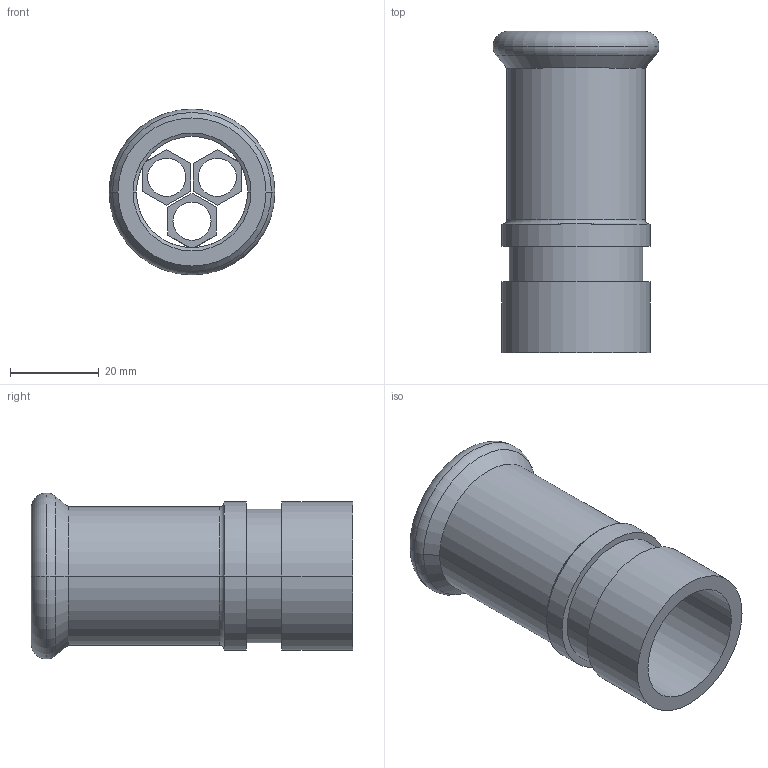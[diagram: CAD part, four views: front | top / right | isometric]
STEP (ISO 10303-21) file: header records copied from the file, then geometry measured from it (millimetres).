
FILE_DESCRIPTION(('OneSpaceDesigner STEP Export'),'2;1');
FILE_NAME('R2748 33x28.stp','2010-06-10T14:50:23',(''),(''),'OneSpace Designer STEP processor for AP214 (Solid Model)','OneSpace Modeling 15.00A 14-Mar-2007 (C) CoCreate Software GmbH','');
FILE_SCHEMA(('AUTOMOTIVE_DESIGN { 1 0 10303 214 1 1 1 1 }'));
Length unit declared in the file: millimetre
Products named in the file (2): R2748_33x28
Assembly tree (1 placements, depth 2):
  R2748_33x28
    R2748_33x28
Bounding box: 37.45 x 72.5 x 37.45 mm (x, y, z)
Volume: 16114.9 mm3; surface area: 15721.8 mm2
Topology: 1 solids, 1 shells, 69 faces, 172 edges, 111 vertices
Faces by surface type: plane 32, cylinder 27, torus 6, cone 4
Entity records: 1864 total; most frequent: ORIENTED_EDGE 344, CARTESIAN_POINT 300, DIRECTION 281, EDGE_CURVE 172, VERTEX_POINT 111, VECTOR 97, LINE 97, AXIS2_PLACEMENT_3D 92
